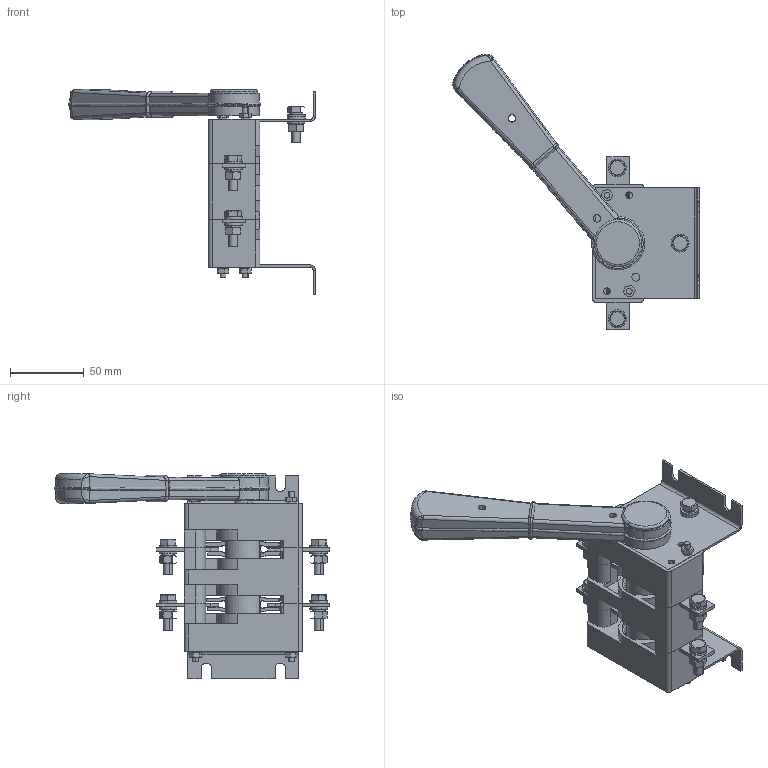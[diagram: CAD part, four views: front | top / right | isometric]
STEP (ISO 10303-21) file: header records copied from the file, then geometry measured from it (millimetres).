
FILE_DESCRIPTION (( 'STEP AP203' ), '1' );
FILE_NAME ('ÂÐ32-31À20220.STEP', '2016-11-28T07:08:18', ( 'user' ), ( '' ), 'SwSTEP 2.0', 'SolidWorks 2010', '' );
FILE_SCHEMA (( 'CONFIG_CONTROL_DESIGN' ));
Products named in the file (1): ﾂﾐ32-31ﾀ20220
Bounding box: 166.87 x 186.38 x 138.71 mm (x, y, z)
Surface area: 102037.3 mm2 (no closed solid volume)
Topology: 0 solids, 75 shells, 591 faces, 2071 edges, 1508 vertices
Faces by surface type: plane 306, cylinder 201, bspline 45, cone 35, torus 4
Entity records: 34206 total; most frequent: CARTESIAN_POINT 16928, DIRECTION 3541, ORIENTED_EDGE 3207, EDGE_CURVE 2067, VERTEX_POINT 1508, AXIS2_PLACEMENT_3D 1226, LINE 1089, VECTOR 1089
